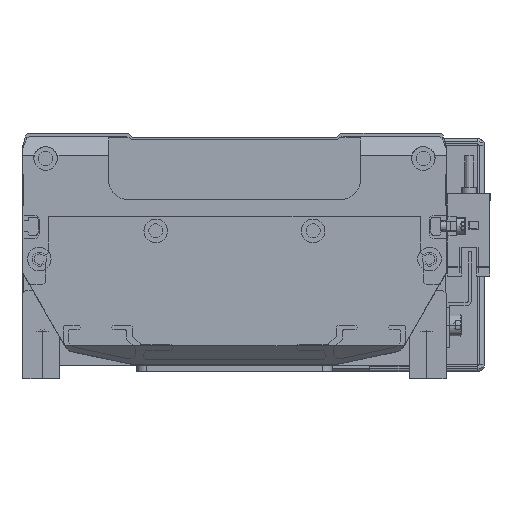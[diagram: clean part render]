
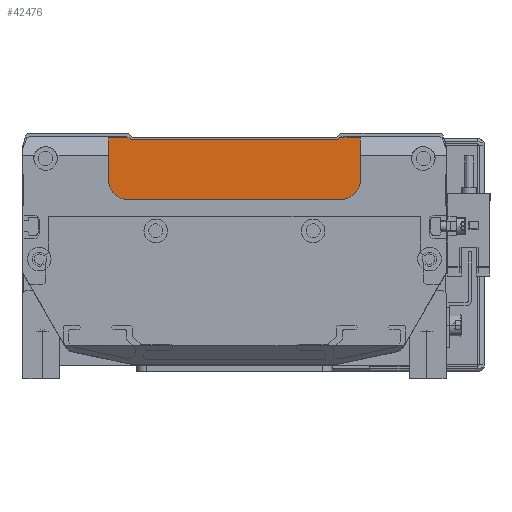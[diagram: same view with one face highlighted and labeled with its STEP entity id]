
A CAD part, front view. The second image highlights one B-rep face of the part: STEP entity #42476.
In plain terms, the highlighted planar face has unit normal (0, -1, 0) as drawn and (0, 0, -1) by its records, which use the part's own axes.
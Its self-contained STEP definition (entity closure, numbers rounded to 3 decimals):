
#450 = EDGE_CURVE ( 'NONE', #10695, #31570, #33617, .T. ) ;
#979 = CARTESIAN_POINT ( 'NONE',  ( -29.893, 1.5, -364. ) ) ;
#1823 = CIRCLE ( 'NONE', #24728, 6. ) ;
#2654 = DIRECTION ( 'NONE',  ( -0.894, -0.447, 0. ) ) ;
#2940 = CARTESIAN_POINT ( 'NONE',  ( -28.893, 2., -364. ) ) ;
#3749 = EDGE_CURVE ( 'NONE', #39336, #10538, #28691, .T. ) ;
#5681 = DIRECTION ( 'NONE',  ( -1., 0., 0. ) ) ;
#6237 = AXIS2_PLACEMENT_3D ( 'NONE', #24563, #34856, #17602 ) ;
#6449 = VERTEX_POINT ( 'NONE', #9226 ) ;
#6871 = EDGE_LOOP ( 'NONE', ( #40322, #18073, #9709, #16567, #17085, #9243, #7798, #32499, #30127, #36202 ) ) ;
#6905 = CARTESIAN_POINT ( 'NONE',  ( 43.604, 25., -364. ) ) ;
#7798 = ORIENTED_EDGE ( 'NONE', *, *, #450, .T. ) ;
#7825 = LINE ( 'NONE', #29170, #13052 ) ;
#7860 = LINE ( 'NONE', #15697, #17848 ) ;
#9226 = CARTESIAN_POINT ( 'NONE',  ( -36.396, 15., -364. ) ) ;
#9243 = ORIENTED_EDGE ( 'NONE', *, *, #19874, .T. ) ;
#9709 = ORIENTED_EDGE ( 'NONE', *, *, #17029, .T. ) ;
#10510 = DIRECTION ( 'NONE',  ( -1., 0., 0. ) ) ;
#10538 = VERTEX_POINT ( 'NONE', #979 ) ;
#10559 = CARTESIAN_POINT ( 'NONE',  ( 37.1, 1.5, -364. ) ) ;
#10695 = VERTEX_POINT ( 'NONE', #31917 ) ;
#10771 = CARTESIAN_POINT ( 'NONE',  ( -30.396, 21., -364. ) ) ;
#11035 = CARTESIAN_POINT ( 'NONE',  ( 37.604, 15., -364. ) ) ;
#11448 = PLANE ( 'NONE',  #6237 ) ;
#11862 = VECTOR ( 'NONE', #2654, 1000. ) ;
#11997 = DIRECTION ( 'NONE',  ( -1., 0., 0. ) ) ;
#12163 = EDGE_CURVE ( 'NONE', #31570, #29691, #7860, .T. ) ;
#12880 = LINE ( 'NONE', #38546, #28688 ) ;
#13052 = VECTOR ( 'NONE', #29324, 1000. ) ;
#14464 = LINE ( 'NONE', #38102, #17607 ) ;
#14900 = AXIS2_PLACEMENT_3D ( 'NONE', #18105, #35063, #18260 ) ;
#14965 = EDGE_CURVE ( 'NONE', #10538, #41861, #22958, .T. ) ;
#15215 = CIRCLE ( 'NONE', #14900, 6. ) ;
#15697 = CARTESIAN_POINT ( 'NONE',  ( 3.604, 1.5, -364. ) ) ;
#16567 = ORIENTED_EDGE ( 'NONE', *, *, #27869, .T. ) ;
#17029 = EDGE_CURVE ( 'NONE', #41861, #6449, #7825, .T. ) ;
#17085 = ORIENTED_EDGE ( 'NONE', *, *, #30082, .T. ) ;
#17602 = DIRECTION ( 'NONE',  ( -1., 0., 0. ) ) ;
#17607 = VECTOR ( 'NONE', #28086, 1000. ) ;
#17848 = VECTOR ( 'NONE', #5681, 1000. ) ;
#18072 = DIRECTION ( 'NONE',  ( 0., 0., -1. ) ) ;
#18073 = ORIENTED_EDGE ( 'NONE', *, *, #14965, .T. ) ;
#18105 = CARTESIAN_POINT ( 'NONE',  ( -30.396, 15., -364. ) ) ;
#18260 = DIRECTION ( 'NONE',  ( 1., 0., 0. ) ) ;
#19100 = EDGE_CURVE ( 'NONE', #23071, #39336, #36141, .T. ) ;
#19854 = EDGE_CURVE ( 'NONE', #23071, #29691, #14464, .T. ) ;
#19874 = EDGE_CURVE ( 'NONE', #32414, #10695, #1823, .T. ) ;
#22958 = LINE ( 'NONE', #32188, #25069 ) ;
#23071 = VERTEX_POINT ( 'NONE', #38780 ) ;
#24563 = CARTESIAN_POINT ( 'NONE',  ( 3.604, 25., -364. ) ) ;
#24728 = AXIS2_PLACEMENT_3D ( 'NONE', #11035, #18072, #31644 ) ;
#25069 = VECTOR ( 'NONE', #11997, 1000. ) ;
#25161 = DIRECTION ( 'NONE',  ( 1., 0., 0. ) ) ;
#25571 = VERTEX_POINT ( 'NONE', #10771 ) ;
#27869 = EDGE_CURVE ( 'NONE', #6449, #25571, #15215, .T. ) ;
#28086 = DIRECTION ( 'NONE',  ( 0.894, -0.447, 0. ) ) ;
#28688 = VECTOR ( 'NONE', #25161, 1000. ) ;
#28691 = LINE ( 'NONE', #2940, #11862 ) ;
#28698 = CARTESIAN_POINT ( 'NONE',  ( 37.604, 21., -364. ) ) ;
#29170 = CARTESIAN_POINT ( 'NONE',  ( -36.396, 25., -364. ) ) ;
#29324 = DIRECTION ( 'NONE',  ( 0., 1., 0. ) ) ;
#29691 = VERTEX_POINT ( 'NONE', #10559 ) ;
#30082 = EDGE_CURVE ( 'NONE', #25571, #32414, #12880, .T. ) ;
#30127 = ORIENTED_EDGE ( 'NONE', *, *, #19854, .F. ) ;
#31570 = VERTEX_POINT ( 'NONE', #37390 ) ;
#31644 = DIRECTION ( 'NONE',  ( 1., 0., 0. ) ) ;
#31917 = CARTESIAN_POINT ( 'NONE',  ( 43.604, 15., -364. ) ) ;
#32188 = CARTESIAN_POINT ( 'NONE',  ( 3.604, 1.5, -364. ) ) ;
#32414 = VERTEX_POINT ( 'NONE', #28698 ) ;
#32499 = ORIENTED_EDGE ( 'NONE', *, *, #12163, .T. ) ;
#32763 = FACE_OUTER_BOUND ( 'NONE', #6871, .T. ) ;
#32986 = VECTOR ( 'NONE', #10510, 1000. ) ;
#33617 = LINE ( 'NONE', #6905, #40428 ) ;
#34317 = DIRECTION ( 'NONE',  ( 0., -1., 0. ) ) ;
#34856 = DIRECTION ( 'NONE',  ( 0., 0., -1. ) ) ;
#35063 = DIRECTION ( 'NONE',  ( 0., 0., -1. ) ) ;
#36141 = LINE ( 'NONE', #43593, #32986 ) ;
#36202 = ORIENTED_EDGE ( 'NONE', *, *, #19100, .T. ) ;
#37390 = CARTESIAN_POINT ( 'NONE',  ( 43.604, 1.5, -364. ) ) ;
#38102 = CARTESIAN_POINT ( 'NONE',  ( 0.903, 19.599, -364. ) ) ;
#38546 = CARTESIAN_POINT ( 'NONE',  ( 3.604, 21., -364. ) ) ;
#38780 = CARTESIAN_POINT ( 'NONE',  ( 36.1, 2., -364. ) ) ;
#39336 = VERTEX_POINT ( 'NONE', #43267 ) ;
#40231 = CARTESIAN_POINT ( 'NONE',  ( -36.396, 1.5, -364. ) ) ;
#40322 = ORIENTED_EDGE ( 'NONE', *, *, #3749, .T. ) ;
#40428 = VECTOR ( 'NONE', #34317, 1000. ) ;
#41861 = VERTEX_POINT ( 'NONE', #40231 ) ;
#42476 = ADVANCED_FACE ( 'NONE', ( #32763 ), #11448, .T. ) ;
#43267 = CARTESIAN_POINT ( 'NONE',  ( -28.893, 2., -364. ) ) ;
#43593 = CARTESIAN_POINT ( 'NONE',  ( 3.604, 2., -364. ) ) ;
